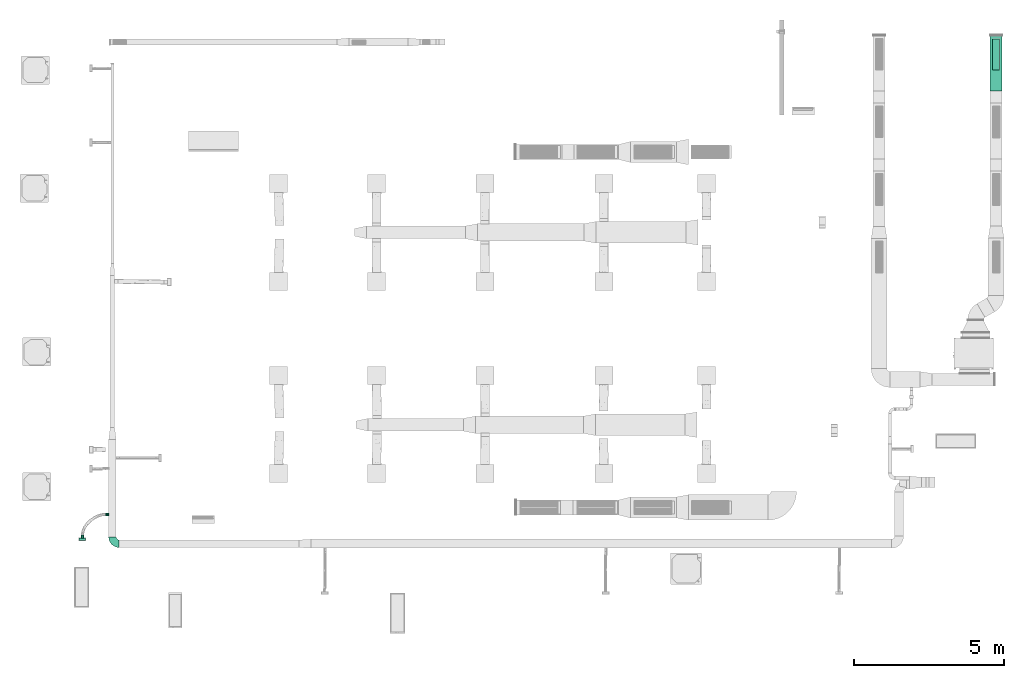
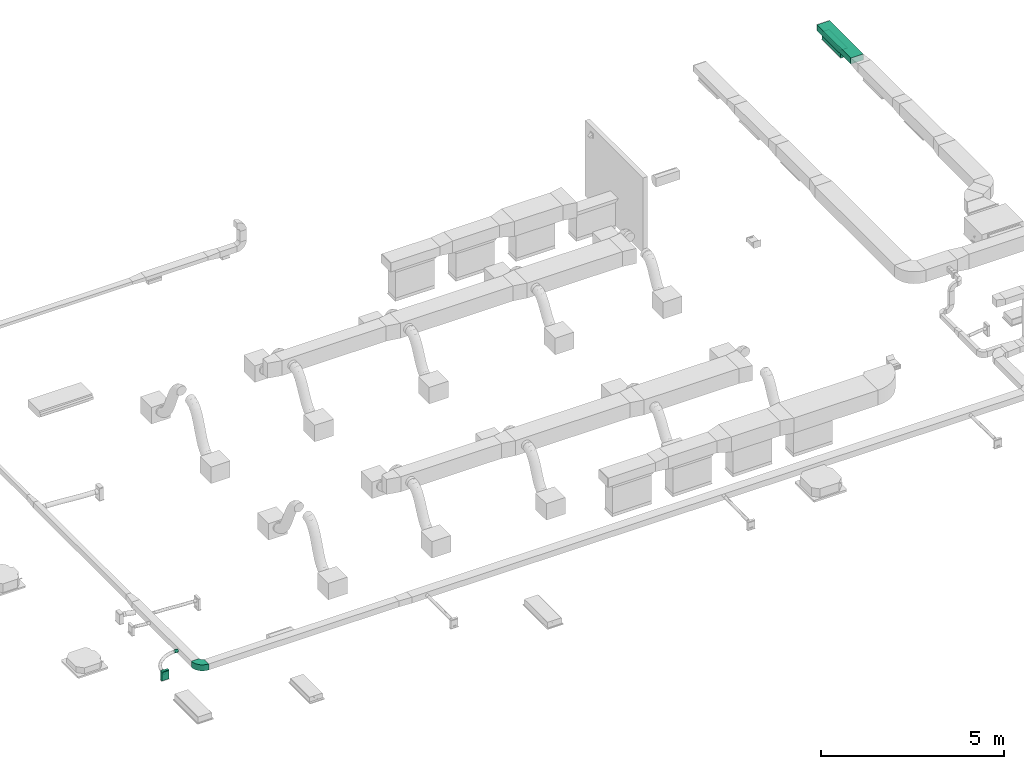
# One storey, part 20 of 60: 5 flow fittings, 3 flow segments.
"""IFC2X3 building model written with IfcOpenShell, lengths in millimetres."""

from ifc_helpers import new_model, entity, si_unit, converted_unit, derived_unit, direction, frame, frame_2d, origin, origin_2d_with_axis, place, context, subcontext, project, spatial, polyline, circle_curve, parameter, trimmed, segment, composite_curve, rectangle, outline, extrude, faceted_brep, source, transform, mapped, material, type_object, type_shapes, element, save


model = new_model("IFC2X3")

# Units and contexts
model_context = context("Model", 3, precision=0.01, world=origin(), true_north=direction((6.123233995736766e-17, 1.0)))
body_context = subcontext(model_context, "Body", "Model", "MODEL_VIEW")
ifc_project = project(units=[si_unit("LENGTHUNIT", "METRE", prefix="MILLI"), converted_unit("PLANEANGLEUNIT", "DEGREE", entity("IfcPlaneAngleMeasure", 0.017453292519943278), si_unit("PLANEANGLEUNIT", "RADIAN"), dimensions=[0, 0, 0, 0, 0, 0, 0]), si_unit("AREAUNIT", "SQUARE_METRE"), derived_unit("THERMALTRANSMITTANCEUNIT", [(si_unit("MASSUNIT", "GRAM", prefix="KILO"), 1), (si_unit("THERMODYNAMICTEMPERATUREUNIT", "KELVIN"), -1), (si_unit("TIMEUNIT", "SECOND"), -3)])], contexts=[model_context])

# Site, building, storey
site_placement = place(None, origin())
site = spatial("IfcSite", under=ifc_project, at=site_placement, Name="Default", CompositionType="ELEMENT")
building_placement = place(site_placement, origin())
building = spatial("IfcBuilding", under=site, at=building_placement, Name="Praça Pedro II, 1301 - Centro (Sul), Teresina - PI, 64001-100", CompositionType="ELEMENT")
storey_placement = place(building_placement, frame((0.0, 0.0, 6040.0)))
storey = spatial("IfcBuildingStorey", under=building, at=storey_placement, Name="2PAV", CompositionType="ELEMENT", Elevation=6040.0)

# Flow segments
duct_segment_type = type_object("IfcDuctSegmentType", Name="Duto retangular:Raios cotovelos / torneiras", PredefinedType="NOTDEFINED")
flow_segment_1_placement = place(storey_placement, origin())
element("IfcFlowSegment", 1, at=flow_segment_1_placement, inside=storey, type_object=duct_segment_type, Name="Duto retangular:Raios cotovelos / torneiras", ObjectType="Duto retangular:Raios cotovelos / torneiras", context=body_context, shape_type="SweptSolid", body=[
    extrude(rectangle(XDim=1840.3777843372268, YDim=400.0000000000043, at=frame_2d((-4.320099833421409e-12, -4.334310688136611e-12), x_axis=(1.0, 0.0))), frame((39577.44502231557, -52613.3697595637, 3350.0), z_axis=(0.0, 0.0, 1.0), x_axis=(0.0, 1.0, 0.0)), (0.0, 0.0, 1.0), 200.0),
])
flow_segment_2_placement = place(storey_placement, origin())
element("IfcFlowSegment", 2, at=flow_segment_2_placement, inside=storey, type_object=duct_segment_type, Name="Duto retangular:Raios cotovelos / torneiras", ObjectType="Duto retangular:Raios cotovelos / torneiras", context=body_context, shape_type="SweptSolid", body=[
    extrude(rectangle(XDim=225.00000000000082, YDim=1024.9999999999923, at=origin_2d_with_axis()), frame((39577.444843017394, -52320.53026708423, 3100.0)), (0.0, 0.0, 1.0), 248.9999999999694),
])
flow_segment_3_placement = place(storey_placement, origin())
element("IfcFlowSegment", 3, at=flow_segment_3_placement, inside=storey, type_object=duct_segment_type, Name="Duto retangular:Raios cotovelos / torneiras", ObjectType="Duto retangular:Raios cotovelos / torneiras", context=body_context, shape_type="SweptSolid", body=[
    extrude(rectangle(XDim=75.00000000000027, YDim=225.00000000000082, at=origin_2d_with_axis()), frame((9139.049654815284, -68469.56096681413, 2500.0), z_axis=(0.0, 0.0, 1.0), x_axis=(0.0, -1.0, 0.0)), (0.0, 0.0, 1.0), 277.1534595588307),
])

# Flow fittings
ifc_material = material(Name="<Unnamed>")
duct_fitting_type_1 = type_object("IfcDuctFittingType", Name="M_Rectangular Tap - Beveled:Standard", PredefinedType="NOTDEFINED", material=ifc_material)
shared_shape_1 = source(origin(), body_context, "Body", "SweptSolid", [
    extrude(outline(polyline([(-3.0383999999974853, -615.4000000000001), (4.057600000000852, -615.4000000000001), (4.057600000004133, 410.6000000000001), (-2.0383999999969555, 410.6000000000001), (-3.0383999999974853, 409.59999999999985), (-3.0383999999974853, -615.4000000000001)])), frame((-2.038399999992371, -102.90000000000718, -112.49999999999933), z_axis=(0.0, 0.0, 1.0), x_axis=(-1.0, 0.0, 0.0)), (0.0, 0.0, 1.0), 224.99999999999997),
])
type_shapes(duct_fitting_type_1, [shared_shape_1])
flow_fitting_1_placement = place(storey_placement, frame((39577.444843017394, -52320.530267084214, 3350.0), z_axis=(1.0, 0.0, 0.0), x_axis=(0.0, 0.0, -1.0)))
element("IfcFlowFitting", 4, at=flow_fitting_1_placement, inside=storey, type_object=duct_fitting_type_1, material=ifc_material, Name="M_Rectangular Tap - Beveled:Standard", ObjectType="M_Rectangular Tap - Beveled:Standard", context=body_context, shape_type="MappedRepresentation", body=[
    mapped(shared_shape_1, transform((0.0, 0.0, 0.0), scale=1.0)),
])
duct_fitting_type_2 = type_object("IfcDuctFittingType", Name="M_Tampa retangular:Padrão", PredefinedType="NOTDEFINED", material=ifc_material)
shared_shape_2 = source(origin(), body_context, "Body", "SweptSolid", [
    extrude(rectangle(XDim=24.999999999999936, YDim=225.00000000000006, at=origin_2d_with_axis()), frame((12.500000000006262, 0.0, -37.50000000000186)), (0.0, 0.0, 1.0), 75.0),
])
type_shapes(duct_fitting_type_2, [shared_shape_2])
flow_fitting_2_placement = place(storey_placement, frame((9139.049654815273, -68469.56096681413, 2777.153459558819), z_axis=(0.0, -1.0, 0.0), x_axis=(0.0, 0.0, 1.0)))
element("IfcFlowFitting", 5, at=flow_fitting_2_placement, inside=storey, type_object=duct_fitting_type_2, material=ifc_material, Name="M_Tampa retangular:Padrão", ObjectType="M_Tampa retangular:Padrão", context=body_context, shape_type="MappedRepresentation", body=[
    mapped(shared_shape_2, transform((0.0, 0.0, 0.0), scale=1.0)),
])
duct_fitting_type_3 = type_object("IfcDuctFittingType", Name="M_Encaixe de duto redondo:Padrão", PredefinedType="NOTDEFINED", material=ifc_material)
shared_shape_3 = source(origin(), body_context, "Body", "Brep", [
    faceted_brep([(101.60000000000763, 50.0, 0.0), (101.60000000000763, 48.296291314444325, 12.940952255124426), (101.60000000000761, 43.301270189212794, 25.0), (101.6000000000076, 35.35533905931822, 35.35533905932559), (101.60000000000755, 25.0, 43.30127018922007), (101.60000000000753, 12.94095225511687, 48.29629131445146), (101.6000000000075, 0.0, 50.0), (101.60000000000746, -12.940952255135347, 48.29629131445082), (101.60000000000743, -25.0, 43.30127018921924), (101.6000000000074, -35.35533905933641, 35.355339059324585), (101.60000000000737, -43.301270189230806, 25.0), (101.60000000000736, -48.296291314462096, 12.940952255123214), (101.60000000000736, -50.0, 0.0), (101.60000000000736, -48.29629131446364, -12.94095225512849), (101.60000000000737, -43.301270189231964, -25.0), (101.6000000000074, -35.35533905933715, -35.35533905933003), (101.60000000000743, -25.0, -43.30127018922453), (101.60000000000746, -12.94095225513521, -48.29629131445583), (101.6000000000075, 0.0, -50.0), (101.60000000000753, 12.9409522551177, -48.29629131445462), (101.60000000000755, 25.0, -43.30127018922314), (101.6000000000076, 35.35533905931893, -35.35533905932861), (101.60000000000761, 43.30127018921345, -25.0), (101.60000000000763, 48.2962913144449, -12.940952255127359), (0.0, 12.940952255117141, 48.29629131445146), (-6.0959999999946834, 12.94095225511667, 48.29629131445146), (-6.095999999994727, 0.0, 50.0), (0.0, 0.0, 50.0), (0.0, 25.0, 43.30127018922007), (-6.0959999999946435, 25.0, 43.30127018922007), (0.0, 35.35533905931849, 35.35533905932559), (-6.095999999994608, 35.35533905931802, 35.35533905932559), (0.0, 48.296291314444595, 12.940952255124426), (-6.095999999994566, 48.296291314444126, 12.940952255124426), (-6.095999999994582, 43.3012701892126, 25.0), (0.0, 43.301270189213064, 25.0), (0.0, 50.0, 0.0), (-6.09599999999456, 50.0, 0.0), (0.0, 43.30127018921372, -25.0), (-6.095999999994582, 43.30127018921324, -25.0), (-6.095999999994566, 48.296291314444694, -12.940952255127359), (0.0, 48.29629131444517, -12.940952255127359), (0.0, 35.3553390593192, -35.35533905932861), (-6.095999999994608, 35.35533905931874, -35.35533905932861), (0.0, 12.940952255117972, -48.29629131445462), (-6.0959999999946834, 12.940952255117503, -48.29629131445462), (-6.0959999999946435, 25.0, -43.30127018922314), (0.0, 25.0, -43.30127018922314), (0.0, 0.0, -50.0), (-6.095999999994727, 0.0, -50.0), (0.0, -12.940952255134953, -48.29629131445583), (-6.09599999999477, -12.940952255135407, -48.29629131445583), (0.0, -25.0, -43.30127018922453), (-6.0959999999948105, -25.0, -43.30127018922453), (0.0, -35.35533905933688, -35.35533905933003), (-6.095999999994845, -35.355339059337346, -35.35533905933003), (0.0, -48.29629131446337, -12.94095225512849), (-6.095999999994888, -48.29629131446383, -12.94095225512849), (-6.095999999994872, -43.30127018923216, -25.0), (0.0, -43.301270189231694, -25.0), (0.0, -50.0, 0.0), (-6.095999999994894, -50.0, 0.0), (0.0, -48.296291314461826, 12.940952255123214), (-6.095999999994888, -48.296291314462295, 12.940952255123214), (0.0, -43.30127018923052, 25.0), (-6.095999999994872, -43.301270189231, 25.0), (0.0, -35.35533905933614, 35.355339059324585), (-6.095999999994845, -35.35533905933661, 35.355339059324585), (0.0, -12.940952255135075, 48.29629131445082), (-6.09599999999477, -12.940952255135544, 48.29629131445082), (-6.0959999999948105, -25.0, 43.30127018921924), (0.0, -25.0, 43.30127018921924)], [[[0, 1, 2, 3, 4, 5, 6, 7, 8, 9, 10, 11, 12, 13, 14, 15, 16, 17, 18, 19, 20, 21, 22, 23]], [[24, 25, 26, 27, 6, 5]], [[28, 29, 25, 24, 5, 4]], [[4, 3, 30, 31, 29, 28]], [[32, 33, 34, 35, 2, 1]], [[36, 37, 33, 32, 1, 0]], [[3, 2, 35, 34, 31, 30]], [[23, 22, 38, 39, 40, 41]], [[0, 23, 41, 40, 37, 36]], [[22, 21, 42, 43, 39, 38]], [[44, 45, 46, 47, 20, 19]], [[48, 49, 45, 44, 19, 18]], [[21, 20, 47, 46, 43, 42]], [[50, 51, 49, 48, 18, 17]], [[52, 53, 51, 50, 17, 16]], [[16, 15, 54, 55, 53, 52]], [[56, 57, 58, 59, 14, 13]], [[60, 61, 57, 56, 13, 12]], [[15, 14, 59, 58, 55, 54]], [[62, 63, 61, 60, 12, 11]], [[64, 65, 63, 62, 11, 10]], [[10, 9, 66, 67, 65, 64]], [[68, 69, 70, 71, 8, 7]], [[27, 26, 69, 68, 7, 6]], [[9, 8, 71, 70, 67, 66]], [[49, 51, 53, 55, 58, 57, 61, 63, 65, 67, 70, 69, 26, 25, 29, 31, 34, 33, 37, 40, 39, 43, 46, 45]]]),
])
type_shapes(duct_fitting_type_3, [shared_shape_3])
for number, where, z_axis, x_axis in (
    (6, (9142.207826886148, -68432.06096681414, 2687.5471116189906), (1.0, 0.0, 0.0), (0.0, 1.0, 0.0)),
    (7, (10017.511122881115, -67641.48030380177, 2650.0), (0.0, 0.0, 1.0), (-1.0, 0.0, 0.0)),
):
    element("IfcFlowFitting", number, at=place(storey_placement, frame(where, z_axis=z_axis, x_axis=x_axis)), inside=storey, type_object=duct_fitting_type_3, material=ifc_material, Name="M_Encaixe de duto redondo:Padrão", ObjectType="M_Encaixe de duto redondo:Padrão", context=body_context, shape_type="MappedRepresentation", body=[
        mapped(shared_shape_3, transform((0.0, 0.0, 0.0), scale=1.0)),
    ])
duct_fitting_type_4 = type_object("IfcDuctFittingType", Name="BTS vanes:1 Splitter Vanes", PredefinedType="NOTDEFINED", material=ifc_material)
shared_shape_4 = source(origin(), body_context, "Body", "SweptSolid", [
    extrude(outline(composite_curve([segment(polyline([(-237.5, -112.49999999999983), (12.5, -112.49999999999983)]), True, "CONTINUOUS"), segment(trimmed(circle_curve(frame_2d((112.5, -112.49999999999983), x_axis=(0.0, 1.0)), 100.0), [parameter(0.0)], [parameter(90.00000000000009)], True, "PARAMETER"), False, "CONTINUOUS"), segment(polyline([(112.5, -12.49999999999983), (112.5, 237.50000000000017)]), True, "CONTINUOUS"), segment(trimmed(circle_curve(frame_2d((112.5, -112.49999999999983), x_axis=(0.0, 1.0)), 350.0), [parameter(0.0)], [parameter(90.00000000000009)], True, "PARAMETER"), True, "CONTINUOUS")], self_intersect=False)), frame((-112.49999999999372, 112.49999999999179, -100.0), z_axis=(0.0, 0.0, 1.0), x_axis=(-1.0, 0.0, 0.0)), (0.0, 0.0, 1.0), 200.0),
    extrude(outline(composite_curve([segment(polyline([(-77.63157894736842, -59.21052631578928), (-40.78947368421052, -59.21052631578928)]), True, "CONTINUOUS"), segment(trimmed(circle_curve(frame_2d((59.21052631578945, -59.21052631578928), x_axis=(0.0, 1.0)), 99.99999999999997), [parameter(0.0)], [parameter(90.00000000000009)], True, "PARAMETER"), False, "CONTINUOUS"), segment(polyline([(59.21052631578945, 40.78947368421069), (59.21052631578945, 77.6315789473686)]), True, "CONTINUOUS"), segment(trimmed(circle_curve(frame_2d((59.21052631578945, -59.21052631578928), x_axis=(0.0, 1.0)), 136.8421052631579), [parameter(0.0)], [parameter(90.00000000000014)], True, "PARAMETER"), True, "CONTINUOUS")], self_intersect=False)), frame((-165.78947368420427, 165.78947368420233, -100.0), z_axis=(0.0, 0.0, 1.0), x_axis=(-1.0, 0.0, 0.0)), (0.0, 0.0, 1.0), 200.0),
])
type_shapes(duct_fitting_type_4, [shared_shape_4])
flow_fitting_3_placement = place(storey_placement, frame((10142.511122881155, -68620.24419274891, 2650.0), z_axis=(0.0, 0.0, 1.0), x_axis=(0.0, -1.0, 0.0)))
element("IfcFlowFitting", 8, at=flow_fitting_3_placement, inside=storey, type_object=duct_fitting_type_4, material=ifc_material, Name="BTS vanes:1 Splitter Vanes", ObjectType="BTS vanes:1 Splitter Vanes", context=body_context, shape_type="MappedRepresentation", body=[
    mapped(shared_shape_4, transform((0.0, 0.0, 0.0), scale=1.0)),
])

save(model, "model.ifc")
